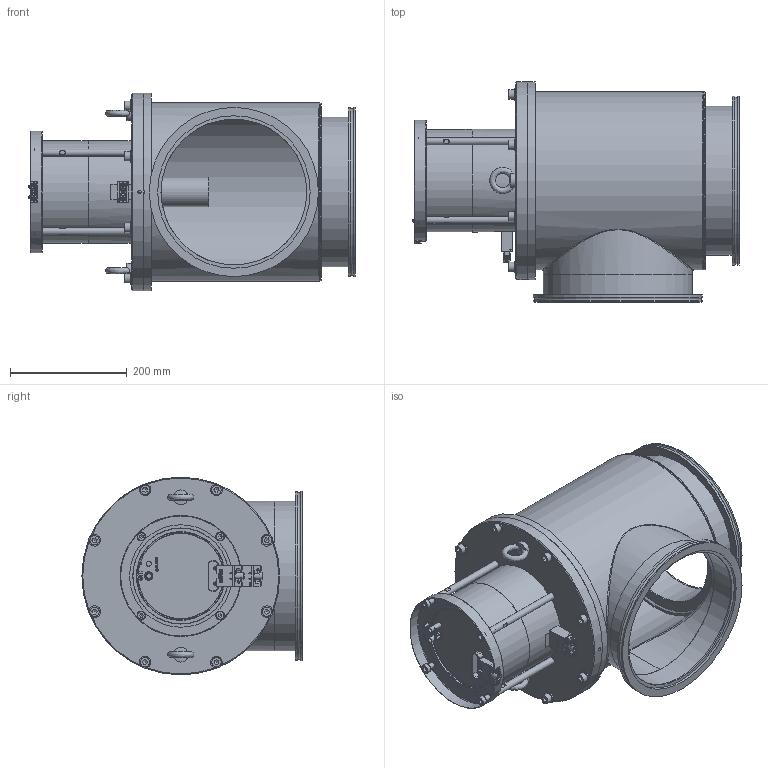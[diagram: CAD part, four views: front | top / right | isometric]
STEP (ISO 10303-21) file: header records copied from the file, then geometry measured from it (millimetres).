
FILE_DESCRIPTION(/* description */ (''),/* implementation_level */ '2;1');
FILE_NAME(/* name */ '1212461128_203.stp',/* time_stamp */ '2019-04-08T07:31:11+02:00',/* author */ (''),/* organization */ (''),/* preprocessor_version */ 'ST-DEVELOPER v16',/* originating_system */ 'SIEMENS PLM Software NX 11.0',/* authorisation */ '');
FILE_SCHEMA (('AP203_CONFIGURATION_CONTROLLED_3D_DESIGN_OF_MECHANICAL_PARTS_AND_ASSEMBLIES_MIM_LF { 1 0 10303 403 2 1 2}'));
Length unit declared in the file: millimetre
Products named in the file (37): 499057; 499005; 499031; 499053; 499064; 499042; 409474; n-6005-429.1; 244224.1; 323364.1; 323431.3; N-6195-007.2; 323395.1; 323388.3; N-7100-005_2.1; 323413.3; N-6024-022.1; N-6134-009.1; N-6061-003.2; N-6016-478.2; 80590-01.1; T-9001-055.1; 77379-01.1; 413954; 411767; 377229; 714822; n-6131-415.1; 395410; n-6033-005.1; 224833.1; 418235_MODEL; 323461.4_NX-ARRAGMNTBETAETIGT; 418236; 498998; 498993_MODEL; 791481
Assembly tree (66 placements, depth 4):
  791481
    224833.1  x4
    n-6033-005.1  x2
    395410  x8
    n-6131-415.1  x8
    498993_MODEL
      498998
        499042
        499064
        499053
        499031  x2
        499005
        499057
    714822
    377229  x4
    411767
    413954
    418236
      77379-01.1
      T-9001-055.1
      80590-01.1
      N-6016-478.2  x2
      N-6061-003.2  x2
      N-6134-009.1  x2
      N-6024-022.1  x2
    323461.4_NX-ARRAGMNTBETAETIGT
      323413.3
      N-7100-005_2.1
      323388.3
      323395.1
      N-6195-007.2
      323431.3
      323364.1
    418235_MODEL
      77379-01.1
      T-9001-055.1
      244224.1  x2
      n-6005-429.1  x2
      409474
Bounding box: 559.67 x 377.5 x 339 mm (x, y, z)
Volume: 5417746.7 mm3; surface area: 1548998.6 mm2
Topology: 93 solids, 93 shells, 1219 faces, 2713 edges, 1755 vertices
Faces by surface type: plane 671, cylinder 352, cone 90, bspline 53, torus 28, extrusion 19, sphere 4, revolution 2
Full cylindrical faces by diameter (mm): 1.93 x1, 2.115 x8, 2.36 x2, 2.4 x2, 2.46 x2, 2.475 x3, 2.5 x10, 2.56 x1, 2.575 x1, 3 x14, 3.035 x1, 3.2 x2, 3.3 x3, 3.4 x2, 3.5 x8, 4.2 x2, 4.7 x2, 5 x4, 5.4 x2, 5.5 x6, 5.6 x1, 5.65 x1, 5.7 x1, 5.8 x2, 6 x5, 6.05 x1, 6.475 x1, 6.5 x2, 6.66 x4, 6.7 x4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
Entity records: 30019 total; most frequent: CARTESIAN_POINT 8814, DIRECTION 3257, ORIENTED_EDGE 2786, EDGE_CURVE 1393, AXIS2_PLACEMENT_3D 1344, EDGE_LOOP 1190, VERTEX_POINT 1054, FACE_BOUND 829
